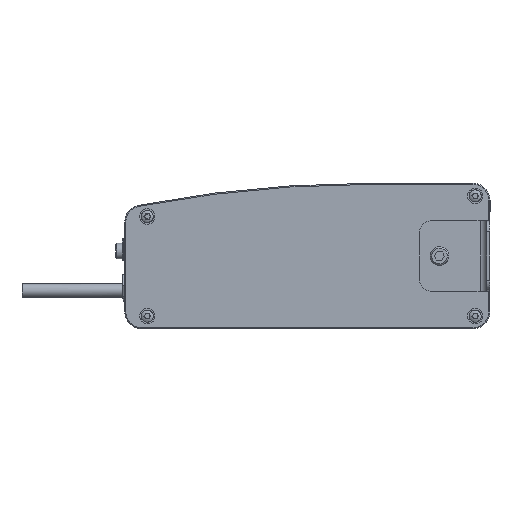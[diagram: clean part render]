
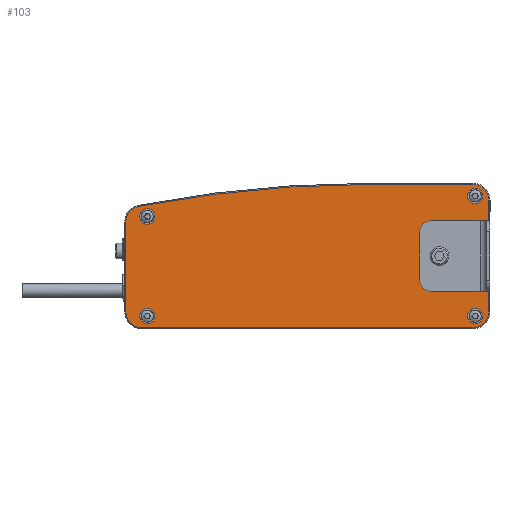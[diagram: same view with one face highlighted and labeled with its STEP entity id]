
A CAD part, left-side view. The second image highlights one B-rep face of the part: STEP entity #103.
In plain terms, the highlighted planar face has unit normal (-1, 0, 0).
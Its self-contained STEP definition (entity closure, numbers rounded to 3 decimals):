
#103 = ADVANCED_FACE( '', ( #10025, #10026, #10027, #10028, #10029, #10030 ), #10031, .T. );
#10025 = FACE_OUTER_BOUND( '', #31132, .T. );
#10026 = FACE_BOUND( '', #31133, .T. );
#10027 = FACE_BOUND( '', #31134, .T. );
#10028 = FACE_BOUND( '', #31135, .T. );
#10029 = FACE_BOUND( '', #31136, .T. );
#10030 = FACE_BOUND( '', #31137, .T. );
#10031 = PLANE( '', #31138 );
#31132 = EDGE_LOOP( '', ( #55196, #55197, #55198, #55199, #55200, #55201, #55202, #55203, #55204 ) );
#31133 = EDGE_LOOP( '', ( #55205 ) );
#31134 = EDGE_LOOP( '', ( #55206 ) );
#31135 = EDGE_LOOP( '', ( #55207 ) );
#31136 = EDGE_LOOP( '', ( #55208 ) );
#31137 = EDGE_LOOP( '', ( #55209, #55210, #55211, #55212, #55213, #55214 ) );
#31138 = AXIS2_PLACEMENT_3D( '', #55215, #55216, #55217 );
#55196 = ORIENTED_EDGE( '', *, *, #141932, .T. );
#55197 = ORIENTED_EDGE( '', *, *, #141933, .T. );
#55198 = ORIENTED_EDGE( '', *, *, #141934, .T. );
#55199 = ORIENTED_EDGE( '', *, *, #141935, .T. );
#55200 = ORIENTED_EDGE( '', *, *, #141936, .T. );
#55201 = ORIENTED_EDGE( '', *, *, #141937, .T. );
#55202 = ORIENTED_EDGE( '', *, *, #141938, .T. );
#55203 = ORIENTED_EDGE( '', *, *, #141939, .T. );
#55204 = ORIENTED_EDGE( '', *, *, #141940, .T. );
#55205 = ORIENTED_EDGE( '', *, *, #141941, .T. );
#55206 = ORIENTED_EDGE( '', *, *, #141942, .T. );
#55207 = ORIENTED_EDGE( '', *, *, #141943, .T. );
#55208 = ORIENTED_EDGE( '', *, *, #141944, .T. );
#55209 = ORIENTED_EDGE( '', *, *, #141945, .T. );
#55210 = ORIENTED_EDGE( '', *, *, #141946, .T. );
#55211 = ORIENTED_EDGE( '', *, *, #141947, .T. );
#55212 = ORIENTED_EDGE( '', *, *, #141948, .F. );
#55213 = ORIENTED_EDGE( '', *, *, #141949, .T. );
#55214 = ORIENTED_EDGE( '', *, *, #141950, .F. );
#55215 = CARTESIAN_POINT( '', ( -121.5, 149.5, 33.44 ) );
#55216 = DIRECTION( '', ( -1., 0., 0. ) );
#55217 = DIRECTION( '', ( 0., -1., 0. ) );
#141932 = EDGE_CURVE( '', #168530, #168531, #168532, .T. );
#141933 = EDGE_CURVE( '', #168531, #168533, #168534, .T. );
#141934 = EDGE_CURVE( '', #168533, #168535, #168536, .T. );
#141935 = EDGE_CURVE( '', #168535, #168537, #168538, .T. );
#141936 = EDGE_CURVE( '', #168537, #168539, #168540, .T. );
#141937 = EDGE_CURVE( '', #168539, #168541, #168542, .T. );
#141938 = EDGE_CURVE( '', #168541, #168543, #168544, .T. );
#141939 = EDGE_CURVE( '', #168543, #168545, #168546, .T. );
#141940 = EDGE_CURVE( '', #168545, #168530, #168547, .T. );
#141941 = EDGE_CURVE( '', #168548, #168548, #168549, .T. );
#141942 = EDGE_CURVE( '', #168550, #168550, #168551, .T. );
#141943 = EDGE_CURVE( '', #168552, #168552, #168553, .T. );
#141944 = EDGE_CURVE( '', #168554, #168554, #168555, .T. );
#141945 = EDGE_CURVE( '', #168556, #168557, #168558, .T. );
#141946 = EDGE_CURVE( '', #168557, #168559, #168560, .T. );
#141947 = EDGE_CURVE( '', #168559, #168561, #168562, .F. );
#141948 = EDGE_CURVE( '', #168563, #168561, #168564, .T. );
#141949 = EDGE_CURVE( '', #168563, #168565, #168566, .F. );
#141950 = EDGE_CURVE( '', #168556, #168565, #168567, .T. );
#168530 = VERTEX_POINT( '', #212250 );
#168531 = VERTEX_POINT( '', #212251 );
#168532 = LINE( '', #212252, #212253 );
#168533 = VERTEX_POINT( '', #212254 );
#168534 = CIRCLE( '', #212255, 7.25 );
#168535 = VERTEX_POINT( '', #212256 );
#168536 = LINE( '', #212257, #212258 );
#168537 = VERTEX_POINT( '', #212259 );
#168538 = CIRCLE( '', #212260, 7.25 );
#168539 = VERTEX_POINT( '', #212261 );
#168540 = LINE( '', #212262, #212263 );
#168541 = VERTEX_POINT( '', #212264 );
#168542 = CIRCLE( '', #212265, 554.75 );
#168543 = VERTEX_POINT( '', #212266 );
#168544 = CIRCLE( '', #212267, 7.25 );
#168545 = VERTEX_POINT( '', #212268 );
#168546 = LINE( '', #212269, #212270 );
#168547 = CIRCLE( '', #212271, 7.25 );
#168548 = VERTEX_POINT( '', #212272 );
#168549 = CIRCLE( '', #212273, 3.5 );
#168550 = VERTEX_POINT( '', #212274 );
#168551 = CIRCLE( '', #212275, 3.5 );
#168552 = VERTEX_POINT( '', #212276 );
#168553 = CIRCLE( '', #212277, 3.5 );
#168554 = VERTEX_POINT( '', #212278 );
#168555 = CIRCLE( '', #212279, 3.5 );
#168556 = VERTEX_POINT( '', #212280 );
#168557 = VERTEX_POINT( '', #212281 );
#168558 = LINE( '', #212282, #212283 );
#168559 = VERTEX_POINT( '', #212284 );
#168560 = LINE( '', #212285, #212286 );
#168561 = VERTEX_POINT( '', #212287 );
#168562 = CIRCLE( '', #212288, 5. );
#168563 = VERTEX_POINT( '', #212289 );
#168564 = LINE( '', #212290, #212291 );
#168565 = VERTEX_POINT( '', #212292 );
#168566 = CIRCLE( '', #212293, 5. );
#168567 = LINE( '', #212294, #212295 );
#212250 = CARTESIAN_POINT( '', ( -121.5, 149.5, -14.7 ) );
#212251 = CARTESIAN_POINT( '', ( -121.5, -1.5, -14.7 ) );
#212252 = CARTESIAN_POINT( '', ( -121.5, 149.5, -14.7 ) );
#212253 = VECTOR( '', #291297, 1000. );
#212254 = CARTESIAN_POINT( '', ( -121.5, -8.75, -7.45 ) );
#212255 = AXIS2_PLACEMENT_3D( '', #291298, #291299, #291300 );
#212256 = CARTESIAN_POINT( '', ( -121.5, -8.75, 43.35 ) );
#212257 = CARTESIAN_POINT( '', ( -121.5, -8.75, 43.35 ) );
#212258 = VECTOR( '', #291301, 1000. );
#212259 = CARTESIAN_POINT( '', ( -121.5, -1.5, 50.6 ) );
#212260 = AXIS2_PLACEMENT_3D( '', #291302, #291303, #291304 );
#212261 = CARTESIAN_POINT( '', ( -121.5, 45.8, 50.6 ) );
#212262 = CARTESIAN_POINT( '', ( -121.5, 45.8, 50.6 ) );
#212263 = VECTOR( '', #291305, 1000. );
#212264 = CARTESIAN_POINT( '', ( -121.5, 150.873, 40.558 ) );
#212265 = AXIS2_PLACEMENT_3D( '', #291306, #291307, #291308 );
#212266 = CARTESIAN_POINT( '', ( -121.5, 156.75, 33.44 ) );
#212267 = AXIS2_PLACEMENT_3D( '', #291309, #291310, #291311 );
#212268 = CARTESIAN_POINT( '', ( -121.5, 156.75, -7.45 ) );
#212269 = CARTESIAN_POINT( '', ( -121.5, 156.75, 33.44 ) );
#212270 = VECTOR( '', #291312, 1000. );
#212271 = AXIS2_PLACEMENT_3D( '', #291313, #291314, #291315 );
#212272 = CARTESIAN_POINT( '', ( -121.5, 150.5, 35.95 ) );
#212273 = AXIS2_PLACEMENT_3D( '', #291316, #291317, #291318 );
#212274 = CARTESIAN_POINT( '', ( -121.5, 1., 45.35 ) );
#212275 = AXIS2_PLACEMENT_3D( '', #291319, #291320, #291321 );
#212276 = CARTESIAN_POINT( '', ( -121.5, 150.5, -9.45 ) );
#212277 = AXIS2_PLACEMENT_3D( '', #291322, #291323, #291324 );
#212278 = CARTESIAN_POINT( '', ( -121.5, 1., -9.45 ) );
#212279 = AXIS2_PLACEMENT_3D( '', #291325, #291326, #291327 );
#212280 = CARTESIAN_POINT( '', ( -121.5, -4.7, 33.95 ) );
#212281 = CARTESIAN_POINT( '', ( -121.5, -4.7, 1.95 ) );
#212282 = CARTESIAN_POINT( '', ( -121.5, -4.7, 33.95 ) );
#212283 = VECTOR( '', #291328, 1000. );
#212284 = CARTESIAN_POINT( '', ( -121.5, 17.8, 1.95 ) );
#212285 = CARTESIAN_POINT( '', ( -121.5, -4.7, 1.95 ) );
#212286 = VECTOR( '', #291329, 1000. );
#212287 = CARTESIAN_POINT( '', ( -121.5, 22.8, 6.95 ) );
#212288 = AXIS2_PLACEMENT_3D( '', #291330, #291331, #291332 );
#212289 = CARTESIAN_POINT( '', ( -121.5, 22.8, 28.95 ) );
#212290 = CARTESIAN_POINT( '', ( -121.5, 22.8, 33.95 ) );
#212291 = VECTOR( '', #291333, 1000. );
#212292 = CARTESIAN_POINT( '', ( -121.5, 17.8, 33.95 ) );
#212293 = AXIS2_PLACEMENT_3D( '', #291334, #291335, #291336 );
#212294 = CARTESIAN_POINT( '', ( -121.5, -4.7, 33.95 ) );
#212295 = VECTOR( '', #291337, 1000. );
#291297 = DIRECTION( '', ( 0., -1., 0. ) );
#291298 = CARTESIAN_POINT( '', ( -121.5, -1.5, -7.45 ) );
#291299 = DIRECTION( '', ( -1., 0., 0. ) );
#291300 = DIRECTION( '', ( 0., -1., 0. ) );
#291301 = DIRECTION( '', ( 0., 0., 1. ) );
#291302 = CARTESIAN_POINT( '', ( -121.5, -1.5, 43.35 ) );
#291303 = DIRECTION( '', ( -1., 0., 0. ) );
#291304 = DIRECTION( '', ( 0., -1., 0. ) );
#291305 = DIRECTION( '', ( 0., 1., 0. ) );
#291306 = CARTESIAN_POINT( '', ( -121.5, 45.8, -504.15 ) );
#291307 = DIRECTION( '', ( -1., 0., 0. ) );
#291308 = DIRECTION( '', ( 0., -1., 0. ) );
#291309 = CARTESIAN_POINT( '', ( -121.5, 149.5, 33.44 ) );
#291310 = DIRECTION( '', ( -1., 0., 0. ) );
#291311 = DIRECTION( '', ( 0., -1., 0. ) );
#291312 = DIRECTION( '', ( 0., 0., -1. ) );
#291313 = CARTESIAN_POINT( '', ( -121.5, 149.5, -7.45 ) );
#291314 = DIRECTION( '', ( -1., 0., 0. ) );
#291315 = DIRECTION( '', ( 0., -1., 0. ) );
#291316 = CARTESIAN_POINT( '', ( -121.5, 147., 35.95 ) );
#291317 = DIRECTION( '', ( 1., 0., 0. ) );
#291318 = DIRECTION( '', ( 0., 1., 0. ) );
#291319 = CARTESIAN_POINT( '', ( -121.5, -2.5, 45.35 ) );
#291320 = DIRECTION( '', ( 1., 0., 0. ) );
#291321 = DIRECTION( '', ( 0., 1., 0. ) );
#291322 = CARTESIAN_POINT( '', ( -121.5, 147., -9.45 ) );
#291323 = DIRECTION( '', ( 1., 0., 0. ) );
#291324 = DIRECTION( '', ( 0., 1., 0. ) );
#291325 = CARTESIAN_POINT( '', ( -121.5, -2.5, -9.45 ) );
#291326 = DIRECTION( '', ( 1., 0., 0. ) );
#291327 = DIRECTION( '', ( 0., 1., 0. ) );
#291328 = DIRECTION( '', ( 0., 0., -1. ) );
#291329 = DIRECTION( '', ( 0., 1., 0. ) );
#291330 = CARTESIAN_POINT( '', ( -121.5, 17.8, 6.95 ) );
#291331 = DIRECTION( '', ( -1., 0., 0. ) );
#291332 = DIRECTION( '', ( 0., 0., 1. ) );
#291333 = DIRECTION( '', ( 0., 0., -1. ) );
#291334 = CARTESIAN_POINT( '', ( -121.5, 17.8, 28.95 ) );
#291335 = DIRECTION( '', ( -1., 0., 0. ) );
#291336 = DIRECTION( '', ( 0., 0., 1. ) );
#291337 = DIRECTION( '', ( 0., 1., 0. ) );
